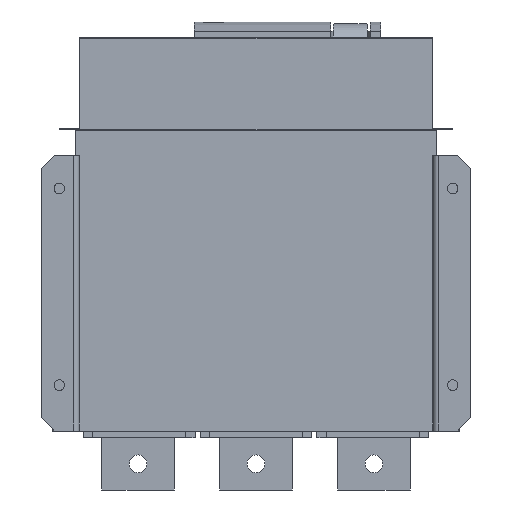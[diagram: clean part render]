
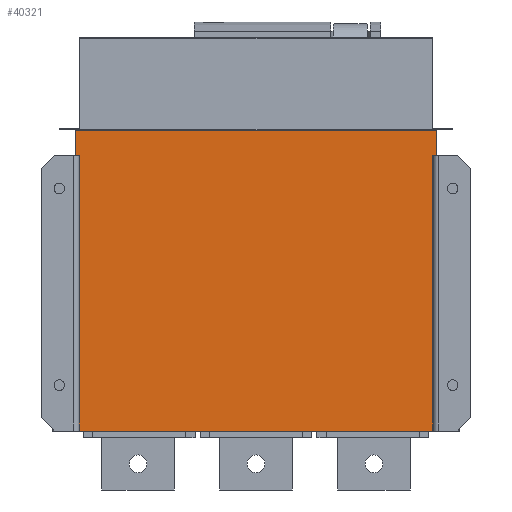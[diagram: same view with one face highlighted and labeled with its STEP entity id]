
A CAD part, front view. The second image highlights one B-rep face of the part: STEP entity #40321.
In plain terms, the highlighted planar face has unit normal (0, -1, 0).
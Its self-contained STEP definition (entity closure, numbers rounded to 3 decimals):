
#4957 = VERTEX_POINT ( 'NONE', #20710 ) ;
#4959 = EDGE_CURVE ( 'NONE', #4960, #4957, #20709, .T. ) ;
#4960 = VERTEX_POINT ( 'NONE', #20783 ) ;
#18581 = CARTESIAN_POINT ( 'NONE',  ( 102.633, 291.847, 96. ) ) ;
#18896 = CARTESIAN_POINT ( 'NONE',  ( 102.633, 291.847, 76.5 ) ) ;
#18897 = DIRECTION ( 'NONE',  ( 0., 0., -1. ) ) ;
#18898 = VECTOR ( 'NONE', #18897, 1000. ) ;
#18899 = CARTESIAN_POINT ( 'NONE',  ( 102.633, 291.847, 96.5 ) ) ;
#18900 = LINE ( 'NONE', #18899, #18898 ) ;
#20709 = LINE ( 'NONE', #20756, #20755 ) ;
#20710 = CARTESIAN_POINT ( 'NONE',  ( 99.633, 291.847, -133.5 ) ) ;
#20755 = VECTOR ( 'NONE', #20785, 1000. ) ;
#20756 = CARTESIAN_POINT ( 'NONE',  ( -173.367, 291.847, -133.5 ) ) ;
#20783 = CARTESIAN_POINT ( 'NONE',  ( -170.367, 291.847, -133.5 ) ) ;
#20785 = DIRECTION ( 'NONE',  ( 1., 0., 0. ) ) ;
#25295 = DIRECTION ( 'NONE',  ( -1., 0., 0. ) ) ;
#25298 = DIRECTION ( 'NONE',  ( 0., 1., 0. ) ) ;
#25301 = CARTESIAN_POINT ( 'NONE',  ( -173.367, 291.847, 96.5 ) ) ;
#25303 = AXIS2_PLACEMENT_3D ( 'NONE', #25301, #25298, #25295 ) ;
#25309 = PLANE ( 'NONE',  #25303 ) ;
#25335 = FACE_OUTER_BOUND ( 'NONE', #40324, .T. ) ;
#25382 = DIRECTION ( 'NONE',  ( -1., 0., 0. ) ) ;
#25383 = VECTOR ( 'NONE', #25382, 1000. ) ;
#25384 = CARTESIAN_POINT ( 'NONE',  ( -173.367, 291.847, 96. ) ) ;
#25385 = LINE ( 'NONE', #25384, #25383 ) ;
#27646 = CARTESIAN_POINT ( 'NONE',  ( -173.367, 291.847, 76.5 ) ) ;
#27648 = CARTESIAN_POINT ( 'NONE',  ( -173.367, 291.847, 96. ) ) ;
#27649 = DIRECTION ( 'NONE',  ( 0., 0., -1. ) ) ;
#27651 = VECTOR ( 'NONE', #27649, 1000. ) ;
#27652 = CARTESIAN_POINT ( 'NONE',  ( -173.367, 291.847, 96.5 ) ) ;
#27653 = LINE ( 'NONE', #27652, #27651 ) ;
#33095 = CARTESIAN_POINT ( 'NONE',  ( -170.367, 291.847, -133.5 ) ) ;
#33096 = LINE ( 'NONE', #33095, #33152 ) ;
#33102 = CARTESIAN_POINT ( 'NONE',  ( -170.367, 291.847, 76.5 ) ) ;
#33104 = DIRECTION ( 'NONE',  ( -1., 0., 0. ) ) ;
#33105 = VECTOR ( 'NONE', #33104, 1000. ) ;
#33106 = CARTESIAN_POINT ( 'NONE',  ( -170.367, 291.847, 76.5 ) ) ;
#33107 = LINE ( 'NONE', #33106, #33105 ) ;
#33151 = DIRECTION ( 'NONE',  ( 0., 0., 1. ) ) ;
#33152 = VECTOR ( 'NONE', #33151, 1000. ) ;
#33337 = EDGE_CURVE ( 'NONE', #33338, #33339, #27653, .T. ) ;
#33338 = VERTEX_POINT ( 'NONE', #27648 ) ;
#33339 = VERTEX_POINT ( 'NONE', #27646 ) ;
#33528 = VERTEX_POINT ( 'NONE', #18581 ) ;
#33723 = EDGE_CURVE ( 'NONE', #33528, #33725, #18900, .T. ) ;
#33725 = VERTEX_POINT ( 'NONE', #18896 ) ;
#34035 = CARTESIAN_POINT ( 'NONE',  ( 99.633, 291.847, 76.5 ) ) ;
#34036 = DIRECTION ( 'NONE',  ( 0., 0., 1. ) ) ;
#34037 = VECTOR ( 'NONE', #34036, 1000. ) ;
#34038 = CARTESIAN_POINT ( 'NONE',  ( 99.633, 291.847, -133.5 ) ) ;
#34039 = LINE ( 'NONE', #34038, #34037 ) ;
#34291 = DIRECTION ( 'NONE',  ( 1., 0., 0. ) ) ;
#34292 = VECTOR ( 'NONE', #34291, 1000. ) ;
#34293 = CARTESIAN_POINT ( 'NONE',  ( 99.633, 291.847, 76.5 ) ) ;
#34294 = LINE ( 'NONE', #34293, #34292 ) ;
#40321 = ADVANCED_FACE ( 'NONE', ( #25335 ), #25309, .F. ) ;
#40324 = EDGE_LOOP ( 'NONE', ( #40326, #40331, #40338, #40513, #40524, #40530, #40537, #40832 ) ) ;
#40326 = ORIENTED_EDGE ( 'NONE', *, *, #33723, .F. ) ;
#40331 = ORIENTED_EDGE ( 'NONE', *, *, #40336, .T. ) ;
#40336 = EDGE_CURVE ( 'NONE', #33528, #33338, #25385, .T. ) ;
#40338 = ORIENTED_EDGE ( 'NONE', *, *, #33337, .T. ) ;
#40513 = ORIENTED_EDGE ( 'NONE', *, *, #40516, .F. ) ;
#40516 = EDGE_CURVE ( 'NONE', #40521, #33339, #33107, .T. ) ;
#40521 = VERTEX_POINT ( 'NONE', #33102 ) ;
#40524 = ORIENTED_EDGE ( 'NONE', *, *, #40526, .F. ) ;
#40526 = EDGE_CURVE ( 'NONE', #4960, #40521, #33096, .T. ) ;
#40530 = ORIENTED_EDGE ( 'NONE', *, *, #4959, .T. ) ;
#40537 = ORIENTED_EDGE ( 'NONE', *, *, #40750, .T. ) ;
#40750 = EDGE_CURVE ( 'NONE', #4957, #40751, #34039, .T. ) ;
#40751 = VERTEX_POINT ( 'NONE', #34035 ) ;
#40832 = ORIENTED_EDGE ( 'NONE', *, *, #40834, .T. ) ;
#40834 = EDGE_CURVE ( 'NONE', #40751, #33725, #34294, .T. ) ;
